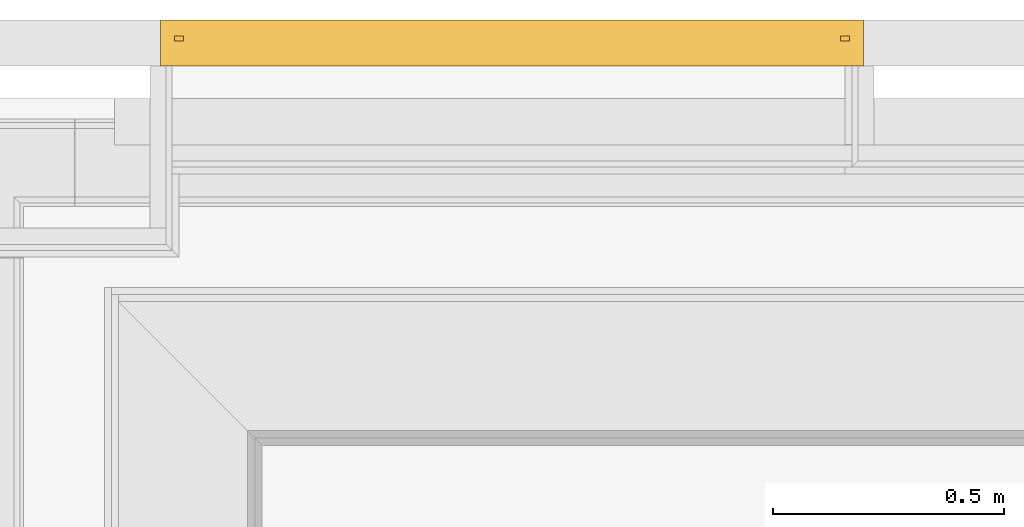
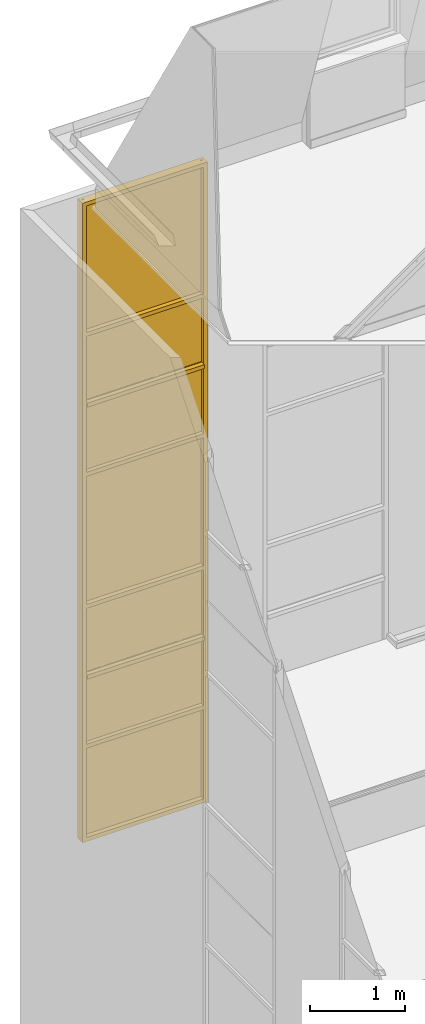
# One storey, part 109 of 169: 1 curtain wall.
"""IFC2X3 building model written with IfcOpenShell, lengths in metres."""

from ifc_helpers import new_model, entity, si_unit, converted_unit, derived_unit, money_unit, direction, frame, origin_with_axes, place, context, subcontext, project, spatial, faceted_brep, material, type_object, element, save


model = new_model("IFC2X3")

# Units and contexts
model_context = context("Model", 3, precision=1e-05, world=origin_with_axes(), true_north=direction((0.0, 1.0)))
body_context = subcontext(model_context, "Body", "Model", "MODEL_VIEW", scale=1.0)
ifc_project = project(units=[si_unit("LENGTHUNIT", "METRE"), si_unit("AREAUNIT", "SQUARE_METRE"), si_unit("VOLUMEUNIT", "CUBIC_METRE"), si_unit("ABSORBEDDOSEUNIT", "GRAY"), si_unit("AMOUNTOFSUBSTANCEUNIT", "MOLE"), si_unit("DOSEEQUIVALENTUNIT", "SIEVERT"), si_unit("ELECTRICCAPACITANCEUNIT", "FARAD"), si_unit("ELECTRICCHARGEUNIT", "COULOMB"), si_unit("ELECTRICCONDUCTANCEUNIT", "SIEMENS"), si_unit("ELECTRICCURRENTUNIT", "AMPERE"), si_unit("ELECTRICRESISTANCEUNIT", "OHM"), si_unit("ELECTRICVOLTAGEUNIT", "VOLT"), si_unit("ENERGYUNIT", "JOULE"), si_unit("FORCEUNIT", "NEWTON"), si_unit("FREQUENCYUNIT", "HERTZ"), si_unit("ILLUMINANCEUNIT", "LUX"), si_unit("INDUCTANCEUNIT", "HENRY"), si_unit("LUMINOUSFLUXUNIT", "LUMEN"), si_unit("LUMINOUSINTENSITYUNIT", "CANDELA"), si_unit("MAGNETICFLUXDENSITYUNIT", "TESLA"), si_unit("MAGNETICFLUXUNIT", "WEBER"), si_unit("MASSUNIT", "GRAM"), converted_unit("PLANEANGLEUNIT", "degree", entity("IfcReal", 0.0174532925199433), si_unit("PLANEANGLEUNIT", "RADIAN"), dimensions=[0, 0, 0, 0, 0, 0, 0]), si_unit("POWERUNIT", "WATT"), si_unit("PRESSUREUNIT", "PASCAL"), si_unit("RADIOACTIVITYUNIT", "BECQUEREL"), si_unit("SOLIDANGLEUNIT", "STERADIAN"), si_unit("THERMODYNAMICTEMPERATUREUNIT", "KELVIN"), si_unit("TIMEUNIT", "SECOND"), derived_unit("ACCELERATIONUNIT", [(si_unit("LENGTHUNIT", "METRE"), 1), (si_unit("TIMEUNIT", "SECOND"), -2)]), derived_unit("ANGULARVELOCITYUNIT", [(converted_unit("PLANEANGLEUNIT", "degree", entity("IfcReal", 0.0174532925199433), si_unit("PLANEANGLEUNIT", "RADIAN"), dimensions=[0, 0, 0, 0, 0, 0, 0]), 1), (si_unit("TIMEUNIT", "SECOND"), -1)]), derived_unit("CURVATUREUNIT", [(converted_unit("PLANEANGLEUNIT", "degree", entity("IfcReal", 0.0174532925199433), si_unit("PLANEANGLEUNIT", "RADIAN"), dimensions=[0, 0, 0, 0, 0, 0, 0]), 1), (si_unit("LENGTHUNIT", "METRE"), -1)]), derived_unit("DYNAMICVISCOSITYUNIT", [(si_unit("PRESSUREUNIT", "PASCAL"), 1), (si_unit("TIMEUNIT", "SECOND"), 1)]), derived_unit("HEATFLUXDENSITYUNIT", [(si_unit("POWERUNIT", "WATT"), 1), (si_unit("LENGTHUNIT", "METRE"), -2)]), derived_unit("HEATINGVALUEUNIT", [(si_unit("ENERGYUNIT", "JOULE"), 1), (si_unit("MASSUNIT", "GRAM"), -1)]), derived_unit("INTEGERCOUNTRATEUNIT", [(si_unit("TIMEUNIT", "SECOND"), -1)]), derived_unit("IONCONCENTRATIONUNIT", [(si_unit("MASSUNIT", "GRAM"), 1), (si_unit("VOLUMEUNIT", "CUBIC_METRE"), -1)]), derived_unit("ISOTHERMALMOISTURECAPACITYUNIT", [(si_unit("VOLUMEUNIT", "CUBIC_METRE"), 1), (si_unit("MASSUNIT", "GRAM"), -1)]), derived_unit("KINEMATICVISCOSITYUNIT", [(si_unit("AREAUNIT", "SQUARE_METRE"), 1), (si_unit("TIMEUNIT", "SECOND"), -1)]), derived_unit("LINEARFORCEUNIT", [(si_unit("FORCEUNIT", "NEWTON"), 1), (si_unit("LENGTHUNIT", "METRE"), -1)]), derived_unit("LINEARMOMENTUNIT", [(si_unit("FORCEUNIT", "NEWTON"), 1), (si_unit("LENGTHUNIT", "METRE"), -1)]), derived_unit("LINEARSTIFFNESSUNIT", [(si_unit("FORCEUNIT", "NEWTON"), 1), (si_unit("LENGTHUNIT", "METRE"), -1)]), derived_unit("LINEARVELOCITYUNIT", [(si_unit("LENGTHUNIT", "METRE"), 1), (si_unit("TIMEUNIT", "SECOND"), -1)]), derived_unit("LUMINOUSINTENSITYDISTRIBUTIONUNIT", [(si_unit("LUMINOUSINTENSITYUNIT", "CANDELA"), 1), (si_unit("LUMINOUSFLUXUNIT", "LUMEN"), -1)]), derived_unit("MASSDENSITYUNIT", [(si_unit("MASSUNIT", "GRAM"), 1), (si_unit("VOLUMEUNIT", "CUBIC_METRE"), -1)]), derived_unit("MASSFLOWRATEUNIT", [(si_unit("MASSUNIT", "GRAM"), 1), (si_unit("TIMEUNIT", "SECOND"), -1)]), derived_unit("MASSPERLENGTHUNIT", [(si_unit("MASSUNIT", "GRAM"), 1), (si_unit("LENGTHUNIT", "METRE"), -1)]), derived_unit("MODULUSOFELASTICITYUNIT", [(si_unit("FORCEUNIT", "NEWTON"), 1), (si_unit("AREAUNIT", "SQUARE_METRE"), -1)]), derived_unit("MODULUSOFLINEARSUBGRADEREACTIONUNIT", [(si_unit("FORCEUNIT", "NEWTON"), 1), (si_unit("LENGTHUNIT", "METRE"), -2)]), derived_unit("MODULUSOFROTATIONALSUBGRADEREACTIONUNIT", [(si_unit("FORCEUNIT", "NEWTON"), 1), (si_unit("LENGTHUNIT", "METRE"), 1)]), derived_unit("MODULUSOFSUBGRADEREACTIONUNIT", [(si_unit("FORCEUNIT", "NEWTON"), 1), (si_unit("VOLUMEUNIT", "CUBIC_METRE"), -1)]), derived_unit("MOISTUREDIFFUSIVITYUNIT", [(si_unit("VOLUMEUNIT", "CUBIC_METRE"), 1), (si_unit("TIMEUNIT", "SECOND"), -1)]), derived_unit("MOLECULARWEIGHTUNIT", [(si_unit("MASSUNIT", "GRAM"), 1), (si_unit("AMOUNTOFSUBSTANCEUNIT", "MOLE"), -1)]), derived_unit("PLANARFORCEUNIT", [(si_unit("FORCEUNIT", "NEWTON"), 1), (si_unit("LENGTHUNIT", "METRE"), -2)]), derived_unit("ROTATIONALFREQUENCYUNIT", [(si_unit("TIMEUNIT", "SECOND"), -1)]), derived_unit("ROTATIONALMASSUNIT", [(si_unit("MASSUNIT", "GRAM"), 1), (si_unit("LENGTHUNIT", "METRE"), 2)]), derived_unit("ROTATIONALSTIFFNESSUNIT", [(si_unit("FORCEUNIT", "NEWTON"), 1), (si_unit("LENGTHUNIT", "METRE"), 1), (converted_unit("PLANEANGLEUNIT", "degree", entity("IfcReal", 0.0174532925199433), si_unit("PLANEANGLEUNIT", "RADIAN"), dimensions=[0, 0, 0, 0, 0, 0, 0]), -1)]), derived_unit("SECTIONAREAINTEGRALUNIT", [(si_unit("LENGTHUNIT", "METRE"), 5)]), derived_unit("SECTIONMODULUSUNIT", [(si_unit("LENGTHUNIT", "METRE"), 3)]), derived_unit("SHEARMODULUSUNIT", [(si_unit("FORCEUNIT", "NEWTON"), 1), (si_unit("AREAUNIT", "SQUARE_METRE"), -1)]), derived_unit("SOUNDPOWERUNIT", [(si_unit("ENERGYUNIT", "JOULE"), 1), (si_unit("TIMEUNIT", "SECOND"), -1)]), derived_unit("SPECIFICHEATCAPACITYUNIT", [(si_unit("FORCEUNIT", "NEWTON"), 1), (si_unit("MASSUNIT", "GRAM"), -1), (si_unit("THERMODYNAMICTEMPERATUREUNIT", "KELVIN"), -1)]), derived_unit("TEMPERATUREGRADIENTUNIT", [(si_unit("THERMODYNAMICTEMPERATUREUNIT", "KELVIN"), 1), (si_unit("LENGTHUNIT", "METRE"), -1)]), derived_unit("THERMALADMITTANCEUNIT", [(si_unit("POWERUNIT", "WATT"), 1), (si_unit("AREAUNIT", "SQUARE_METRE"), -1), (si_unit("THERMODYNAMICTEMPERATUREUNIT", "KELVIN"), -1)]), derived_unit("THERMALCONDUCTANCEUNIT", [(si_unit("POWERUNIT", "WATT"), 1), (si_unit("LENGTHUNIT", "METRE"), -1), (si_unit("THERMODYNAMICTEMPERATUREUNIT", "KELVIN"), -1)]), derived_unit("THERMALEXPANSIONCOEFFICIENTUNIT", [(si_unit("THERMODYNAMICTEMPERATUREUNIT", "KELVIN"), -1)]), derived_unit("THERMALRESISTANCEUNIT", [(si_unit("AREAUNIT", "SQUARE_METRE"), 1), (si_unit("POWERUNIT", "WATT"), -1)]), derived_unit("THERMALTRANSMITTANCEUNIT", [(si_unit("POWERUNIT", "WATT"), 1), (si_unit("AREAUNIT", "SQUARE_METRE"), -1), (si_unit("THERMODYNAMICTEMPERATUREUNIT", "KELVIN"), -1)]), derived_unit("TORQUEUNIT", [(si_unit("FORCEUNIT", "NEWTON"), 1), (si_unit("LENGTHUNIT", "METRE"), 1)]), derived_unit("VAPORPERMEABILITYUNIT", [(si_unit("MASSUNIT", "GRAM"), 1), (si_unit("TIMEUNIT", "SECOND"), -1)]), derived_unit("VOLUMETRICFLOWRATEUNIT", [(si_unit("VOLUMEUNIT", "CUBIC_METRE"), 1), (si_unit("TIMEUNIT", "SECOND"), -1)]), derived_unit("WARPINGCONSTANTUNIT", [(si_unit("LENGTHUNIT", "METRE"), 6)]), derived_unit("WARPINGMOMENTUNIT", [(si_unit("FORCEUNIT", "NEWTON"), 1), (si_unit("LENGTHUNIT", "METRE"), 2)]), money_unit("GBP")], contexts=[model_context])

# Site, building, storey
site_placement = place(None, origin_with_axes())
site = spatial("IfcSite", under=ifc_project, at=site_placement, Name="Site", CompositionType="ELEMENT")
building_placement = place(site_placement, origin_with_axes())
building = spatial("IfcBuilding", under=site, at=building_placement, Name="Building01", CompositionType="ELEMENT")
storey_placement = place(building_placement, frame((0.0, 0.0, 5.15), z_axis=(0.0, 0.0, 1.0), x_axis=(1.0, 0.0, 0.0)))
storey = spatial("IfcBuildingStorey", under=building, at=storey_placement, Name="1F", CompositionType="ELEMENT", Elevation=5.15)

# Curtain wall
ifc_material = material(Name="A-CurtainWall_Frame")
curtain_wall_type = type_object("IfcCurtainWallType", Name="Pattern - Maximum Spacing", PredefinedType="NOTDEFINED")
curtain_wall_placement = place(storey_placement, frame((0.0, 0.0, -5.15), z_axis=(0.0, 0.0, 1.0), x_axis=(1.0, 0.0, 0.0)))
element("IfcCurtainWall", 1, at=curtain_wall_placement, inside=storey, type_object=curtain_wall_type, material=ifc_material, Name="12", ObjectType="Pattern - Maximum Spacing", context=body_context, shape_type="Brep", body=[
    faceted_brep([(2.19, 14.855, 7.716517), (2.19, 14.865, 7.716517), (0.73, 14.865, 7.716517), (0.73, 14.855, 7.716517), (2.19, 14.855, 6.530918), (2.19, 14.865, 6.530918), (0.73, 14.855, 6.530918), (0.73, 14.865, 6.530918)], [[[0, 1, 2, 3]], [[4, 5, 1, 0]], [[6, 7, 5, 4]], [[3, 2, 7, 6]], [[1, 5, 7, 2]], [[3, 6, 4, 0]]]),
    faceted_brep([(0.7, 14.9, 6.500918), (0.75, 14.9, 6.500918), (0.75, 14.865, 6.500918), (0.73, 14.865, 6.500918), (0.73, 14.855, 6.500918), (0.75, 14.855, 6.500918), (0.75, 14.8, 6.500918), (0.7, 14.8, 6.500918), (0.7, 14.8, 7.721517), (0.7, 14.9, 7.721517), (0.75, 14.9, 7.721517), (0.75, 14.865, 7.721517), (0.73, 14.865, 7.721517), (0.73, 14.855, 7.721517), (0.75, 14.855, 7.721517), (0.75, 14.8, 7.721517)], [[[0, 1, 2, 3, 4, 5, 6, 7]], [[7, 8, 9, 0]], [[0, 9, 10, 1]], [[1, 10, 11, 2]], [[2, 11, 12, 3]], [[3, 12, 13, 4]], [[4, 13, 14, 5]], [[5, 14, 15, 6]], [[6, 15, 8, 7]]]),
    faceted_brep([(2.17, 14.9, 6.550918), (2.17, 14.865, 6.550918), (2.17, 14.865, 6.530918), (2.17, 14.855, 6.530918), (2.17, 14.855, 6.550918), (2.17, 14.8, 6.550918), (2.17, 14.8, 6.500918), (2.17, 14.9, 6.500918), (0.75, 14.9, 6.500918), (0.75, 14.9, 6.550918), (0.75, 14.865, 6.550918), (0.75, 14.865, 6.530918), (0.75, 14.855, 6.530918), (0.75, 14.855, 6.550918), (0.75, 14.8, 6.550918), (0.75, 14.8, 6.500918)], [[[0, 1, 2, 3, 4, 5, 6, 7]], [[7, 8, 9, 0]], [[0, 9, 10, 1]], [[1, 10, 11, 2]], [[2, 11, 12, 3]], [[3, 12, 13, 4]], [[4, 13, 14, 5]], [[5, 14, 15, 6]], [[6, 15, 8, 7]], [[8, 15, 14, 13, 12, 11, 10, 9]]]),
    faceted_brep([(2.22, 14.9, 6.500918), (2.22, 14.9, 7.721517), (2.22, 14.8, 7.721517), (2.22, 14.8, 6.500918), (2.17, 14.9, 6.500918), (2.17, 14.9, 7.721517), (2.17, 14.865, 6.500918), (2.17, 14.865, 7.721517), (2.19, 14.865, 6.500918), (2.19, 14.865, 7.721517), (2.19, 14.855, 6.500918), (2.19, 14.855, 7.721517), (2.17, 14.855, 6.500918), (2.17, 14.855, 7.721517), (2.17, 14.8, 6.500918), (2.17, 14.8, 7.721517)], [[[0, 1, 2, 3]], [[4, 5, 1, 0]], [[6, 7, 5, 4]], [[8, 9, 7, 6]], [[10, 11, 9, 8]], [[12, 13, 11, 10]], [[14, 15, 13, 12]], [[3, 2, 15, 14]], [[14, 12, 10, 8, 6, 4, 0, 3]]]),
    faceted_brep([(0.75, 14.855, 7.726517), (0.75, 14.865, 7.726517), (0.75, 14.865, 7.746517), (0.75, 14.9, 7.746517), (0.75, 14.9, 7.696517), (0.75, 14.865, 7.696517), (0.75, 14.865, 7.716517), (0.75, 14.855, 7.716517), (0.75, 14.855, 7.696517), (0.75, 14.8, 7.696517), (0.75, 14.8, 7.746517), (0.75, 14.855, 7.746517), (2.17, 14.855, 7.746517), (2.17, 14.855, 7.726517), (2.17, 14.865, 7.726517), (2.17, 14.865, 7.746517), (2.17, 14.9, 7.746517), (2.17, 14.9, 7.696517), (2.17, 14.865, 7.696517), (2.17, 14.855, 7.716517), (2.17, 14.855, 7.696517), (2.17, 14.865, 7.716517), (2.17, 14.8, 7.746517), (2.17, 14.8, 7.696517)], [[[0, 1, 2, 3, 4, 5, 6, 7, 8, 9, 10, 11]], [[11, 12, 13, 0]], [[0, 13, 14, 1]], [[1, 14, 15, 2]], [[2, 15, 16, 3]], [[3, 16, 17, 4]], [[4, 17, 18, 5]], [[7, 19, 20, 8]], [[6, 21, 19, 7]], [[5, 18, 21, 6]], [[10, 22, 12, 11]], [[9, 23, 22, 10]], [[8, 20, 23, 9]], [[20, 19, 21, 18, 17, 16, 15, 14, 13, 12, 22, 23]]]),
    faceted_brep([(2.19, 14.85, 8.613217), (2.19, 14.87, 8.613217), (0.73, 14.87, 8.613217), (0.73, 14.85, 8.613217), (2.19, 14.85, 7.726517), (2.19, 14.87, 7.726517), (0.73, 14.85, 7.726517), (0.73, 14.87, 7.726517)], [[[0, 1, 2, 3]], [[4, 5, 1, 0]], [[6, 7, 5, 4]], [[3, 2, 7, 6]], [[1, 5, 7, 2]], [[3, 6, 4, 0]]]),
    faceted_brep([(0.75, 14.8, 8.618217), (0.75, 14.8, 7.721517), (0.75, 14.855, 7.721517), (0.75, 14.855, 8.618217), (0.7, 14.8, 8.618217), (0.7, 14.8, 7.721517), (0.7, 14.9, 8.618217), (0.7, 14.9, 7.721517), (0.75, 14.9, 8.618217), (0.75, 14.9, 7.721517), (0.75, 14.865, 8.618217), (0.75, 14.865, 7.721517), (0.73, 14.865, 8.618217), (0.73, 14.865, 7.721517), (0.73, 14.855, 8.618217), (0.73, 14.855, 7.721517)], [[[0, 1, 2, 3]], [[4, 5, 1, 0]], [[6, 7, 5, 4]], [[8, 9, 7, 6]], [[10, 11, 9, 8]], [[12, 13, 11, 10]], [[14, 15, 13, 12]], [[3, 2, 15, 14]]]),
    faceted_brep([(2.22, 14.9, 7.721517), (2.22, 14.9, 8.618217), (2.22, 14.8, 8.618217), (2.22, 14.8, 7.721517), (2.17, 14.9, 7.721517), (2.17, 14.9, 8.618217), (2.17, 14.865, 7.721517), (2.17, 14.865, 8.618217), (2.19, 14.865, 7.721517), (2.19, 14.865, 8.618217), (2.19, 14.855, 7.721517), (2.19, 14.855, 8.618217), (2.17, 14.855, 7.721517), (2.17, 14.855, 8.618217), (2.17, 14.8, 7.721517), (2.17, 14.8, 8.618217)], [[[0, 1, 2, 3]], [[4, 5, 1, 0]], [[6, 7, 5, 4]], [[8, 9, 7, 6]], [[10, 11, 9, 8]], [[12, 13, 11, 10]], [[14, 15, 13, 12]], [[3, 2, 15, 14]]]),
    faceted_brep([(0.75, 14.8375, 8.623217), (0.75, 14.8475, 8.623217), (0.75, 14.8475, 8.643217), (0.75, 14.8825, 8.643217), (0.75, 14.8825, 8.593217), (0.75, 14.8475, 8.593217), (0.75, 14.8475, 8.613217), (0.75, 14.8375, 8.613217), (0.75, 14.8375, 8.593217), (0.75, 14.7825, 8.593217), (0.75, 14.7825, 8.643217), (0.75, 14.8375, 8.643217), (2.17, 14.8375, 8.643217), (2.17, 14.8375, 8.623217), (2.17, 14.8475, 8.623217), (2.17, 14.8475, 8.643217), (2.17, 14.8825, 8.643217), (2.17, 14.8825, 8.593217), (2.17, 14.8475, 8.593217), (2.17, 14.8375, 8.613217), (2.17, 14.8375, 8.593217), (2.17, 14.8475, 8.613217), (2.17, 14.7825, 8.643217), (2.17, 14.7825, 8.593217)], [[[0, 1, 2, 3, 4, 5, 6, 7, 8, 9, 10, 11]], [[11, 12, 13, 0]], [[0, 13, 14, 1]], [[1, 14, 15, 2]], [[2, 15, 16, 3]], [[3, 16, 17, 4]], [[4, 17, 18, 5]], [[7, 19, 20, 8]], [[6, 21, 19, 7]], [[5, 18, 21, 6]], [[10, 22, 12, 11]], [[9, 23, 22, 10]], [[8, 20, 23, 9]], [[20, 19, 21, 18, 17, 16, 15, 14, 13, 12, 22, 23]]]),
    faceted_brep([(2.19, 14.85, 9.509916), (2.19, 14.87, 9.509916), (0.73, 14.87, 9.509916), (0.73, 14.85, 9.509916), (2.19, 14.85, 8.623217), (2.19, 14.87, 8.623217), (0.73, 14.85, 8.623217), (0.73, 14.87, 8.623217)], [[[0, 1, 2, 3]], [[4, 5, 1, 0]], [[6, 7, 5, 4]], [[3, 2, 7, 6]], [[1, 5, 7, 2]], [[3, 6, 4, 0]]]),
    faceted_brep([(0.75, 14.8, 9.514916), (0.75, 14.8, 8.618217), (0.75, 14.855, 8.618217), (0.75, 14.855, 9.514916), (0.7, 14.8, 9.514916), (0.7, 14.8, 8.618217), (0.7, 14.9, 9.514916), (0.7, 14.9, 8.618217), (0.75, 14.9, 9.514916), (0.75, 14.9, 8.618217), (0.75, 14.865, 9.514916), (0.75, 14.865, 8.618217), (0.73, 14.865, 9.514916), (0.73, 14.865, 8.618217), (0.73, 14.855, 9.514916), (0.73, 14.855, 8.618217)], [[[0, 1, 2, 3]], [[4, 5, 1, 0]], [[6, 7, 5, 4]], [[8, 9, 7, 6]], [[10, 11, 9, 8]], [[12, 13, 11, 10]], [[14, 15, 13, 12]], [[3, 2, 15, 14]]]),
    faceted_brep([(2.22, 14.9, 8.618217), (2.22, 14.9, 9.514916), (2.22, 14.8, 9.514916), (2.22, 14.8, 8.618217), (2.17, 14.9, 8.618217), (2.17, 14.9, 9.514916), (2.17, 14.865, 8.618217), (2.17, 14.865, 9.514916), (2.19, 14.865, 8.618217), (2.19, 14.865, 9.514916), (2.19, 14.855, 8.618217), (2.19, 14.855, 9.514916), (2.17, 14.855, 8.618217), (2.17, 14.855, 9.514916), (2.17, 14.8, 8.618217), (2.17, 14.8, 9.514916)], [[[0, 1, 2, 3]], [[4, 5, 1, 0]], [[6, 7, 5, 4]], [[8, 9, 7, 6]], [[10, 11, 9, 8]], [[12, 13, 11, 10]], [[14, 15, 13, 12]], [[3, 2, 15, 14]]]),
    faceted_brep([(0.75, 14.855, 9.519916), (0.75, 14.865, 9.519916), (0.75, 14.865, 9.539916), (0.75, 14.9, 9.539916), (0.75, 14.9, 9.489916), (0.75, 14.865, 9.489916), (0.75, 14.865, 9.509916), (0.75, 14.855, 9.509916), (0.75, 14.855, 9.489916), (0.75, 14.8, 9.489916), (0.75, 14.8, 9.539916), (0.75, 14.855, 9.539916), (2.17, 14.855, 9.539916), (2.17, 14.855, 9.519916), (2.17, 14.865, 9.519916), (2.17, 14.865, 9.539916), (2.17, 14.9, 9.539916), (2.17, 14.9, 9.489916), (2.17, 14.865, 9.489916), (2.17, 14.855, 9.509916), (2.17, 14.855, 9.489916), (2.17, 14.865, 9.509916), (2.17, 14.8, 9.539916), (2.17, 14.8, 9.489916)], [[[0, 1, 2, 3, 4, 5, 6, 7, 8, 9, 10, 11]], [[11, 12, 13, 0]], [[0, 13, 14, 1]], [[1, 14, 15, 2]], [[2, 15, 16, 3]], [[3, 16, 17, 4]], [[4, 17, 18, 5]], [[7, 19, 20, 8]], [[6, 21, 19, 7]], [[5, 18, 21, 6]], [[10, 22, 12, 11]], [[9, 23, 22, 10]], [[8, 20, 23, 9]], [[20, 19, 21, 18, 17, 16, 15, 14, 13, 12, 22, 23]]]),
    faceted_brep([(2.19, 14.855, 11.203681), (2.19, 14.865, 11.203681), (0.73, 14.865, 11.203681), (0.73, 14.855, 11.203681), (2.19, 14.855, 9.519916), (2.19, 14.865, 9.519916), (0.73, 14.855, 9.519916), (0.73, 14.865, 9.519916)], [[[0, 1, 2, 3]], [[4, 5, 1, 0]], [[6, 7, 5, 4]], [[3, 2, 7, 6]], [[1, 5, 7, 2]], [[3, 6, 4, 0]]]),
    faceted_brep([(0.75, 14.8, 11.208681), (0.75, 14.8, 9.514916), (0.75, 14.855, 9.514916), (0.75, 14.855, 11.208681), (0.7, 14.8, 11.208681), (0.7, 14.8, 9.514916), (0.7, 14.9, 11.208681), (0.7, 14.9, 9.514916), (0.75, 14.9, 11.208681), (0.75, 14.9, 9.514916), (0.75, 14.865, 11.208681), (0.75, 14.865, 9.514916), (0.73, 14.865, 11.208681), (0.73, 14.865, 9.514916), (0.73, 14.855, 11.208681), (0.73, 14.855, 9.514916)], [[[0, 1, 2, 3]], [[4, 5, 1, 0]], [[6, 7, 5, 4]], [[8, 9, 7, 6]], [[10, 11, 9, 8]], [[12, 13, 11, 10]], [[14, 15, 13, 12]], [[3, 2, 15, 14]]]),
    faceted_brep([(2.22, 14.9, 9.514916), (2.22, 14.9, 11.208681), (2.22, 14.8, 11.208681), (2.22, 14.8, 9.514916), (2.17, 14.9, 9.514916), (2.17, 14.9, 11.208681), (2.17, 14.865, 9.514916), (2.17, 14.865, 11.208681), (2.19, 14.865, 9.514916), (2.19, 14.865, 11.208681), (2.19, 14.855, 9.514916), (2.19, 14.855, 11.208681), (2.17, 14.855, 9.514916), (2.17, 14.855, 11.208681), (2.17, 14.8, 9.514916), (2.17, 14.8, 11.208681)], [[[0, 1, 2, 3]], [[4, 5, 1, 0]], [[6, 7, 5, 4]], [[8, 9, 7, 6]], [[10, 11, 9, 8]], [[12, 13, 11, 10]], [[14, 15, 13, 12]], [[3, 2, 15, 14]]]),
    faceted_brep([(0.75, 14.855, 11.213681), (0.75, 14.865, 11.213681), (0.75, 14.865, 11.233681), (0.75, 14.9, 11.233681), (0.75, 14.9, 11.183681), (0.75, 14.865, 11.183681), (0.75, 14.865, 11.203681), (0.75, 14.855, 11.203681), (0.75, 14.855, 11.183681), (0.75, 14.8, 11.183681), (0.75, 14.8, 11.233681), (0.75, 14.855, 11.233681), (2.17, 14.855, 11.233681), (2.17, 14.855, 11.213681), (2.17, 14.865, 11.213681), (2.17, 14.865, 11.233681), (2.17, 14.9, 11.233681), (2.17, 14.9, 11.183681), (2.17, 14.865, 11.183681), (2.17, 14.855, 11.203681), (2.17, 14.855, 11.183681), (2.17, 14.865, 11.203681), (2.17, 14.8, 11.233681), (2.17, 14.8, 11.183681)], [[[0, 1, 2, 3, 4, 5, 6, 7, 8, 9, 10, 11]], [[11, 12, 13, 0]], [[0, 13, 14, 1]], [[1, 14, 15, 2]], [[2, 15, 16, 3]], [[3, 16, 17, 4]], [[4, 17, 18, 5]], [[7, 19, 20, 8]], [[6, 21, 19, 7]], [[5, 18, 21, 6]], [[10, 22, 12, 11]], [[9, 23, 22, 10]], [[8, 20, 23, 9]], [[20, 19, 21, 18, 17, 16, 15, 14, 13, 12, 22, 23]]]),
    faceted_brep([(2.19, 14.85, 12.10038), (2.19, 14.87, 12.10038), (0.73, 14.87, 12.10038), (0.73, 14.85, 12.10038), (2.19, 14.85, 11.213681), (2.19, 14.87, 11.213681), (0.73, 14.85, 11.213681), (0.73, 14.87, 11.213681)], [[[0, 1, 2, 3]], [[4, 5, 1, 0]], [[6, 7, 5, 4]], [[3, 2, 7, 6]], [[1, 5, 7, 2]], [[3, 6, 4, 0]]]),
    faceted_brep([(0.75, 14.8, 12.10538), (0.75, 14.8, 11.208681), (0.75, 14.855, 11.208681), (0.75, 14.855, 12.10538), (0.7, 14.8, 12.10538), (0.7, 14.8, 11.208681), (0.7, 14.9, 12.10538), (0.7, 14.9, 11.208681), (0.75, 14.9, 12.10538), (0.75, 14.9, 11.208681), (0.75, 14.865, 12.10538), (0.75, 14.865, 11.208681), (0.73, 14.865, 12.10538), (0.73, 14.865, 11.208681), (0.73, 14.855, 12.10538), (0.73, 14.855, 11.208681)], [[[0, 1, 2, 3]], [[4, 5, 1, 0]], [[6, 7, 5, 4]], [[8, 9, 7, 6]], [[10, 11, 9, 8]], [[12, 13, 11, 10]], [[14, 15, 13, 12]], [[3, 2, 15, 14]]]),
    faceted_brep([(2.22, 14.9, 11.208681), (2.22, 14.9, 12.10538), (2.22, 14.8, 12.10538), (2.22, 14.8, 11.208681), (2.17, 14.9, 11.208681), (2.17, 14.9, 12.10538), (2.17, 14.865, 11.208681), (2.17, 14.865, 12.10538), (2.19, 14.865, 11.208681), (2.19, 14.865, 12.10538), (2.19, 14.855, 11.208681), (2.19, 14.855, 12.10538), (2.17, 14.855, 11.208681), (2.17, 14.855, 12.10538), (2.17, 14.8, 11.208681), (2.17, 14.8, 12.10538)], [[[0, 1, 2, 3]], [[4, 5, 1, 0]], [[6, 7, 5, 4]], [[8, 9, 7, 6]], [[10, 11, 9, 8]], [[12, 13, 11, 10]], [[14, 15, 13, 12]], [[3, 2, 15, 14]]]),
    faceted_brep([(0.75, 14.8375, 12.11038), (0.75, 14.8475, 12.11038), (0.75, 14.8475, 12.13038), (0.75, 14.8825, 12.13038), (0.75, 14.8825, 12.08038), (0.75, 14.8475, 12.08038), (0.75, 14.8475, 12.10038), (0.75, 14.8375, 12.10038), (0.75, 14.8375, 12.08038), (0.75, 14.7825, 12.08038), (0.75, 14.7825, 12.13038), (0.75, 14.8375, 12.13038), (2.17, 14.8375, 12.13038), (2.17, 14.8375, 12.11038), (2.17, 14.8475, 12.11038), (2.17, 14.8475, 12.13038), (2.17, 14.8825, 12.13038), (2.17, 14.8825, 12.08038), (2.17, 14.8475, 12.08038), (2.17, 14.8375, 12.10038), (2.17, 14.8375, 12.08038), (2.17, 14.8475, 12.10038), (2.17, 14.7825, 12.13038), (2.17, 14.7825, 12.08038)], [[[0, 1, 2, 3, 4, 5, 6, 7, 8, 9, 10, 11]], [[11, 12, 13, 0]], [[0, 13, 14, 1]], [[1, 14, 15, 2]], [[2, 15, 16, 3]], [[3, 16, 17, 4]], [[4, 17, 18, 5]], [[7, 19, 20, 8]], [[6, 21, 19, 7]], [[5, 18, 21, 6]], [[10, 22, 12, 11]], [[9, 23, 22, 10]], [[8, 20, 23, 9]], [[20, 19, 21, 18, 17, 16, 15, 14, 13, 12, 22, 23]]]),
    faceted_brep([(0.73, 14.855, 13.00708), (0.73, 14.865, 13.00708), (2.19, 14.865, 13.00708), (2.19, 14.855, 13.00708), (0.73, 14.855, 14.670918), (0.73, 14.865, 14.670918), (2.19, 14.855, 14.670918), (2.19, 14.865, 14.670918)], [[[0, 1, 2, 3]], [[4, 5, 1, 0]], [[6, 7, 5, 4]], [[3, 2, 7, 6]], [[1, 5, 7, 2]], [[3, 6, 4, 0]]]),
    faceted_brep([(2.22, 14.9, 14.700918), (2.17, 14.9, 14.700918), (2.17, 14.865, 14.700918), (2.19, 14.865, 14.700918), (2.19, 14.855, 14.700918), (2.17, 14.855, 14.700918), (2.17, 14.8, 14.700918), (2.22, 14.8, 14.700918), (2.22, 14.8, 13.00208), (2.22, 14.9, 13.00208), (2.17, 14.9, 13.00208), (2.17, 14.865, 13.00208), (2.19, 14.865, 13.00208), (2.19, 14.855, 13.00208), (2.17, 14.855, 13.00208), (2.17, 14.8, 13.00208)], [[[0, 1, 2, 3, 4, 5, 6, 7]], [[7, 8, 9, 0]], [[0, 9, 10, 1]], [[1, 10, 11, 2]], [[2, 11, 12, 3]], [[3, 12, 13, 4]], [[4, 13, 14, 5]], [[5, 14, 15, 6]], [[6, 15, 8, 7]]]),
    faceted_brep([(0.75, 14.865, 14.670918), (0.75, 14.855, 14.670918), (0.75, 14.855, 14.650918), (0.75, 14.8, 14.650918), (0.75, 14.8, 14.700918), (0.75, 14.9, 14.700918), (0.75, 14.9, 14.650918), (0.75, 14.865, 14.650918), (2.17, 14.865, 14.650918), (2.17, 14.865, 14.670918), (2.17, 14.855, 14.670918), (2.17, 14.855, 14.650918), (2.17, 14.8, 14.650918), (2.17, 14.8, 14.700918), (2.17, 14.9, 14.700918), (2.17, 14.9, 14.650918)], [[[0, 1, 2, 3, 4, 5, 6, 7]], [[7, 8, 9, 0]], [[0, 9, 10, 1]], [[1, 10, 11, 2]], [[2, 11, 12, 3]], [[3, 12, 13, 4]], [[4, 13, 14, 5]], [[5, 14, 15, 6]], [[6, 15, 8, 7]], [[8, 15, 14, 13, 12, 11, 10, 9]]]),
    faceted_brep([(0.7, 14.9, 14.700918), (0.7, 14.9, 13.00208), (0.7, 14.8, 13.00208), (0.7, 14.8, 14.700918), (0.75, 14.9, 14.700918), (0.75, 14.9, 13.00208), (0.75, 14.865, 14.700918), (0.75, 14.865, 13.00208), (0.73, 14.865, 14.700918), (0.73, 14.865, 13.00208), (0.73, 14.855, 14.700918), (0.73, 14.855, 13.00208), (0.75, 14.855, 14.700918), (0.75, 14.855, 13.00208), (0.75, 14.8, 14.700918), (0.75, 14.8, 13.00208)], [[[0, 1, 2, 3]], [[4, 5, 1, 0]], [[6, 7, 5, 4]], [[8, 9, 7, 6]], [[10, 11, 9, 8]], [[12, 13, 11, 10]], [[14, 15, 13, 12]], [[3, 2, 15, 14]], [[14, 12, 10, 8, 6, 4, 0, 3]]]),
    faceted_brep([(2.17, 14.865, 13.00708), (2.17, 14.855, 13.00708), (2.17, 14.855, 13.02708), (2.17, 14.8, 13.02708), (2.17, 14.8, 12.97708), (2.17, 14.855, 12.97708), (2.17, 14.855, 12.99708), (2.17, 14.865, 12.99708), (2.17, 14.865, 12.97708), (2.17, 14.9, 12.97708), (2.17, 14.9, 13.02708), (2.17, 14.865, 13.02708), (0.75, 14.865, 13.02708), (0.75, 14.865, 13.00708), (0.75, 14.855, 13.00708), (0.75, 14.855, 13.02708), (0.75, 14.8, 13.02708), (0.75, 14.8, 12.97708), (0.75, 14.855, 12.97708), (0.75, 14.865, 12.99708), (0.75, 14.865, 12.97708), (0.75, 14.855, 12.99708), (0.75, 14.9, 13.02708), (0.75, 14.9, 12.97708)], [[[0, 1, 2, 3, 4, 5, 6, 7, 8, 9, 10, 11]], [[11, 12, 13, 0]], [[0, 13, 14, 1]], [[1, 14, 15, 2]], [[2, 15, 16, 3]], [[3, 16, 17, 4]], [[4, 17, 18, 5]], [[7, 19, 20, 8]], [[6, 21, 19, 7]], [[5, 18, 21, 6]], [[10, 22, 12, 11]], [[9, 23, 22, 10]], [[8, 20, 23, 9]], [[20, 19, 21, 18, 17, 16, 15, 14, 13, 12, 22, 23]]]),
    faceted_brep([(2.19, 14.85, 12.99708), (2.19, 14.87, 12.99708), (0.73, 14.87, 12.99708), (0.73, 14.85, 12.99708), (2.19, 14.85, 12.11038), (2.19, 14.87, 12.11038), (0.73, 14.85, 12.11038), (0.73, 14.87, 12.11038)], [[[0, 1, 2, 3]], [[4, 5, 1, 0]], [[6, 7, 5, 4]], [[3, 2, 7, 6]], [[1, 5, 7, 2]], [[3, 6, 4, 0]]]),
    faceted_brep([(0.75, 14.8, 13.00208), (0.75, 14.8, 12.10538), (0.75, 14.855, 12.10538), (0.75, 14.855, 13.00208), (0.7, 14.8, 13.00208), (0.7, 14.8, 12.10538), (0.7, 14.9, 13.00208), (0.7, 14.9, 12.10538), (0.75, 14.9, 13.00208), (0.75, 14.9, 12.10538), (0.75, 14.865, 13.00208), (0.75, 14.865, 12.10538), (0.73, 14.865, 13.00208), (0.73, 14.865, 12.10538), (0.73, 14.855, 13.00208), (0.73, 14.855, 12.10538)], [[[0, 1, 2, 3]], [[4, 5, 1, 0]], [[6, 7, 5, 4]], [[8, 9, 7, 6]], [[10, 11, 9, 8]], [[12, 13, 11, 10]], [[14, 15, 13, 12]], [[3, 2, 15, 14]]]),
    faceted_brep([(2.22, 14.9, 12.10538), (2.22, 14.9, 13.00208), (2.22, 14.8, 13.00208), (2.22, 14.8, 12.10538), (2.17, 14.9, 12.10538), (2.17, 14.9, 13.00208), (2.17, 14.865, 12.10538), (2.17, 14.865, 13.00208), (2.19, 14.865, 12.10538), (2.19, 14.865, 13.00208), (2.19, 14.855, 12.10538), (2.19, 14.855, 13.00208), (2.17, 14.855, 12.10538), (2.17, 14.855, 13.00208), (2.17, 14.8, 12.10538), (2.17, 14.8, 13.00208)], [[[0, 1, 2, 3]], [[4, 5, 1, 0]], [[6, 7, 5, 4]], [[8, 9, 7, 6]], [[10, 11, 9, 8]], [[12, 13, 11, 10]], [[14, 15, 13, 12]], [[3, 2, 15, 14]]]),
])

save(model, "model.ifc")
